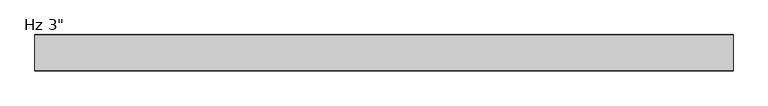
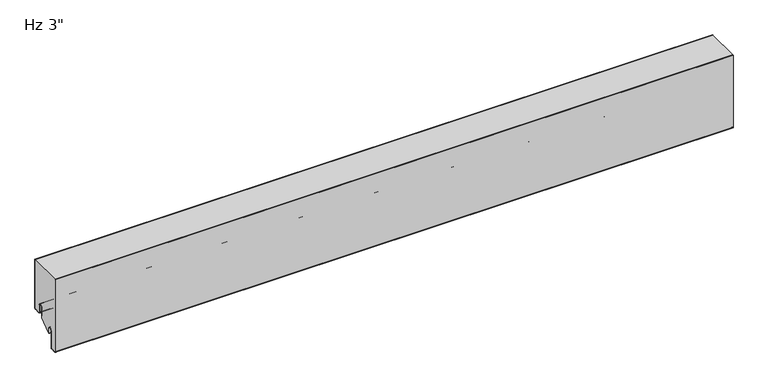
"""IFC4 building model written with IfcOpenShell, lengths in millimetres: plate geometry."""

from ifc_helpers import new_model, si_unit, point, frame, frame_2d, origin, place, context, project, spatial, polyline, circle_curve, trimmed, segment, composite_curve, outline, extrude, source, transform, mapped, element, save


def plate_c147d802(model_context):
    return source(origin(), model_context, "Body", "SweptSolid", [
        extrude(outline(composite_curve([segment(trimmed(circle_curve(frame_2d((-21.43125, 19.05)), 4.96875), [point((-16.4625, 19.05))], [point((-26.4, 19.05))], True, "CARTESIAN"), True, "CONTINUOUS"), segment(polyline([(-26.4, 19.05), (-26.4, -3.1323422), (-49.2157227, -23.01875), (-50.8, -23.01875), (-50.8, -13.5080174), (-51.59375, -13.5080174), (-51.3875, -11.9205174)]), True, "CONTINUOUS"), segment(trimmed(circle_curve(frame_2d((-56.35625, -11.9205174)), 4.96875), [point((-51.3875, -11.9205174))], [point((-61.325, -11.9205174))], True, "CARTESIAN"), True, "CONTINUOUS"), segment(polyline([(-61.325, -11.9205174), (-61.325, -50.1038221)]), True, "CONTINUOUS"), segment(trimmed(circle_curve(frame_2d((-62.70625, -50.1038221)), 1.38125), [point((-61.325, -50.1038221))], [point((-62.633961, -51.4831791))], False, "CARTESIAN"), True, "CONTINUOUS"), segment(polyline([(-62.633961, -51.4831791), (-73.746461, -52.0655606)]), True, "CONTINUOUS"), segment(trimmed(circle_curve(frame_2d((-73.81875, -50.6862035)), 1.38125), [point((-73.746461, -52.0655606))], [point((-75.2, -50.6862035))], False, "CARTESIAN"), True, "CONTINUOUS"), segment(polyline([(-75.2, -50.6862035), (-75.2, 113.4), (-1.0, 113.4), (-1.0, 3.175)]), True, "CONTINUOUS"), segment(trimmed(circle_curve(frame_2d((-2.38125, 3.175)), 1.38125), [point((-1.0, 3.175))], [point((-2.38125, 1.79375))], False, "CARTESIAN"), True, "CONTINUOUS"), segment(polyline([(-2.38125, 1.79375), (-15.08125, 1.79375)]), True, "CONTINUOUS"), segment(trimmed(circle_curve(frame_2d((-15.08125, 3.175)), 1.38125), [point((-15.08125, 1.79375))], [point((-16.4625, 3.175))], False, "CARTESIAN"), True, "CONTINUOUS"), segment(polyline([(-16.4625, 3.175), (-16.4625, 19.05)]), True, "CONTINUOUS")], self_intersect=False)), frame((-730.0, 0.0, 0.0), z_axis=(1.0, 0.0, 0.0), x_axis=(0.0, 1.0, 0.0)), (0.0, 0.0, 1.0), 1460.0),
        extrude(outline(composite_curve([segment(polyline([(-25.4, 0.79375), (-26.4, 0.79375), (-26.4, 19.05)]), True, "CONTINUOUS"), segment(trimmed(circle_curve(frame_2d((-21.43125, 19.05)), 4.96875), [point((-26.4, 19.05))], [point((-16.4625, 19.05))], False, "CARTESIAN"), True, "CONTINUOUS"), segment(polyline([(-16.4625, 19.05), (-16.4625, 3.175)]), True, "CONTINUOUS"), segment(trimmed(circle_curve(frame_2d((-15.08125, 3.175)), 1.38125), [point((-16.4625, 3.175))], [point((-15.08125, 1.79375))], True, "CARTESIAN"), True, "CONTINUOUS"), segment(polyline([(-15.08125, 1.79375), (-2.38125, 1.79375)]), True, "CONTINUOUS"), segment(trimmed(circle_curve(frame_2d((-2.38125, 3.175)), 1.38125), [point((-2.38125, 1.79375))], [point((-1.0, 3.175))], True, "CARTESIAN"), True, "CONTINUOUS"), segment(polyline([(-1.0, 3.175), (-1.0, 113.4), (0.0, 113.4), (0.0, 3.175)]), True, "CONTINUOUS"), segment(trimmed(circle_curve(frame_2d((-2.38125, 3.175)), 2.38125), [point((0.0, 3.175))], [point((-2.38125, 0.79375))], False, "CARTESIAN"), True, "CONTINUOUS"), segment(polyline([(-2.38125, 0.79375), (-15.08125, 0.79375)]), True, "CONTINUOUS"), segment(trimmed(circle_curve(frame_2d((-15.08125, 3.175)), 2.38125), [point((-15.08125, 0.79375))], [point((-17.4625, 3.175))], False, "CARTESIAN"), True, "CONTINUOUS"), segment(polyline([(-17.4625, 3.175), (-17.4625, 19.05)]), True, "CONTINUOUS"), segment(trimmed(circle_curve(frame_2d((-21.43125, 19.05)), 3.96875), [point((-17.4625, 19.05))], [point((-25.4, 19.05))], True, "CARTESIAN"), True, "CONTINUOUS"), segment(polyline([(-25.4, 19.05), (-25.4, 0.79375)]), True, "CONTINUOUS")], self_intersect=False)), frame((-730.0, 0.0, 0.0), z_axis=(1.0, 0.0, 0.0), x_axis=(0.0, 1.0, 0.0)), (0.0, 0.0, 1.0), 1460.0),
        extrude(outline(composite_curve([segment(trimmed(circle_curve(frame_2d((-51.59375, -23.2314549)), 0.79375), [point((-50.8, -23.2314549))], [point((-52.3875, -23.2314549))], False, "CARTESIAN"), True, "CONTINUOUS"), segment(polyline([(-52.3875, -23.2314549), (-52.3875, -11.9205174)]), True, "CONTINUOUS"), segment(trimmed(circle_curve(frame_2d((-56.35625, -11.9205174)), 3.96875), [point((-52.3875, -11.9205174))], [point((-60.325, -11.9205174))], True, "CARTESIAN"), True, "CONTINUOUS"), segment(polyline([(-60.325, -11.9205174), (-60.325, -50.1038221)]), True, "CONTINUOUS"), segment(trimmed(circle_curve(frame_2d((-62.70625, -50.1038221)), 2.38125), [point((-60.325, -50.1038221))], [point((-62.581625, -52.4818086))], False, "CARTESIAN"), True, "CONTINUOUS"), segment(polyline([(-62.581625, -52.4818086), (-73.694125, -53.0641901)]), True, "CONTINUOUS"), segment(trimmed(circle_curve(frame_2d((-73.81875, -50.6862035)), 2.38125), [point((-73.694125, -53.0641901))], [point((-76.2, -50.6862035))], False, "CARTESIAN"), True, "CONTINUOUS"), segment(polyline([(-76.2, -50.6862035), (-76.2, 113.4), (-75.2, 113.4), (-75.2, -50.6862035)]), True, "CONTINUOUS"), segment(trimmed(circle_curve(frame_2d((-73.81875, -50.6862035)), 1.38125), [point((-75.2, -50.6862035))], [point((-73.746461, -52.0655606))], True, "CARTESIAN"), True, "CONTINUOUS"), segment(polyline([(-73.746461, -52.0655606), (-62.633961, -51.4831791)]), True, "CONTINUOUS"), segment(trimmed(circle_curve(frame_2d((-62.70625, -50.1038221)), 1.38125), [point((-62.633961, -51.4831791))], [point((-61.325, -50.1038221))], True, "CARTESIAN"), True, "CONTINUOUS"), segment(polyline([(-61.325, -50.1038221), (-61.325, -11.9205174)]), True, "CONTINUOUS"), segment(trimmed(circle_curve(frame_2d((-56.35625, -11.9205174)), 4.96875), [point((-61.325, -11.9205174))], [point((-51.3875, -11.9205174))], False, "CARTESIAN"), True, "CONTINUOUS"), segment(polyline([(-51.3875, -11.9205174), (-51.59375, -13.5080174), (-50.8, -13.5080174), (-50.8, -23.2314549)]), True, "CONTINUOUS")], self_intersect=False)), frame((-730.0, 0.0, 0.0), z_axis=(1.0, 0.0, 0.0), x_axis=(0.0, 1.0, 0.0)), (0.0, 0.0, 1.0), 1460.0),
    ])


if __name__ == "__main__":
    model = new_model("IFC4")
    model_context = context("Model", 3, world=origin())
    ifc_project = project(units=[si_unit("LENGTHUNIT", "METRE", prefix="MILLI")], contexts=[model_context])
    site = spatial("IfcSite", under=ifc_project)
    building = spatial("IfcBuilding", under=site)
    placement = place(None, origin())
    plate_shape = plate_c147d802(model_context)
    element("IfcPlate", 1, ObjectType="KIP-30-DWTR-R19-CP-Hz-F : Hz 3\"", at=placement, inside=building, context=model_context, shape_type="MappedRepresentation", body=[
        mapped(plate_shape, transform((0.0, 0.0, 0.0), x_axis=(1.0, 0.0, 0.0), y_axis=(0.0, 1.0, 0.0), z_axis=(0.0, 0.0, 1.0))),
    ])
    save(model, "model.ifc")
